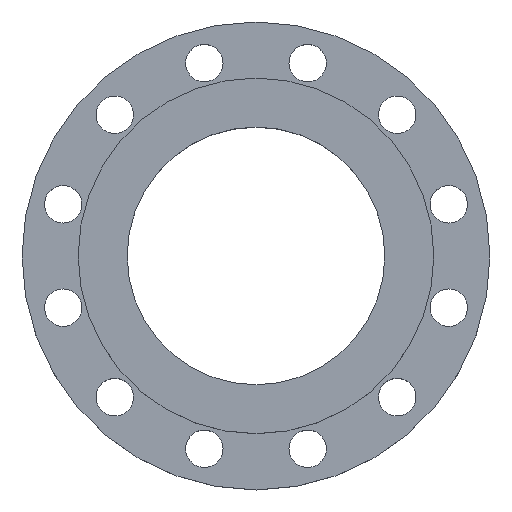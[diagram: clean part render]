
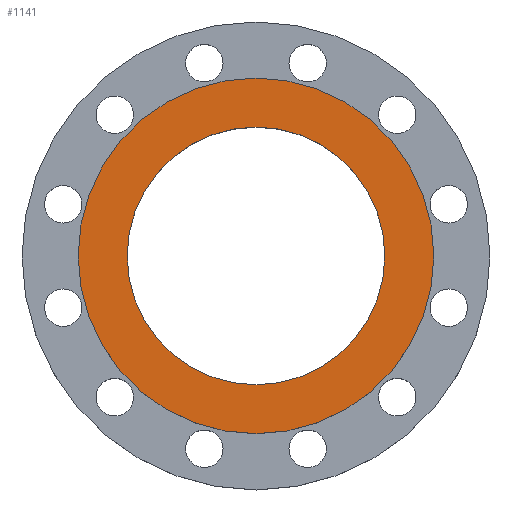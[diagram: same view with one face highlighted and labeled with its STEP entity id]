
A CAD part, top view. The second image highlights one B-rep face of the part: STEP entity #1141.
In plain terms, the highlighted planar face has unit normal (0, 0, 1).
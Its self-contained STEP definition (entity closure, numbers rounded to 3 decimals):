
#1 = AXIS2_PLACEMENT_3D ( 'NONE', #76, #605, #1111 ) ;
#7 = EDGE_CURVE ( 'NONE', #982, #41, #1441, .T. ) ;
#11 = DIRECTION ( 'NONE',  ( 0., 0., 1. ) ) ;
#13 = AXIS2_PLACEMENT_3D ( 'NONE', #714, #1183, #49 ) ;
#41 = VERTEX_POINT ( 'NONE', #1487 ) ;
#42 = AXIS2_PLACEMENT_3D ( 'NONE', #327, #892, #1308 ) ;
#49 = DIRECTION ( 'NONE',  ( 1., 0., 0. ) ) ;
#76 = CARTESIAN_POINT ( 'NONE',  ( 0., 0., 28. ) ) ;
#166 = DIRECTION ( 'NONE',  ( 1., 0., 0. ) ) ;
#208 = AXIS2_PLACEMENT_3D ( 'NONE', #234, #11, #515 ) ;
#234 = CARTESIAN_POINT ( 'NONE',  ( 0., 0., 28. ) ) ;
#241 = EDGE_CURVE ( 'NONE', #41, #982, #895, .T. ) ;
#306 = CIRCLE ( 'NONE', #13, 142.5 ) ;
#327 = CARTESIAN_POINT ( 'NONE',  ( 103.25, 0., 28. ) ) ;
#394 = ORIENTED_EDGE ( 'NONE', *, *, #1057, .T. ) ;
#465 = FACE_OUTER_BOUND ( 'NONE', #961, .T. ) ;
#502 = EDGE_CURVE ( 'NONE', #882, #1025, #306, .T. ) ;
#515 = DIRECTION ( 'NONE',  ( 1., 0., 0. ) ) ;
#522 = EDGE_LOOP ( 'NONE', ( #1352, #954 ) ) ;
#605 = DIRECTION ( 'NONE',  ( 0., 0., 1. ) ) ;
#714 = CARTESIAN_POINT ( 'NONE',  ( 0., 0., 28. ) ) ;
#799 = AXIS2_PLACEMENT_3D ( 'NONE', #845, #1277, #166 ) ;
#804 = CIRCLE ( 'NONE', #799, 142.5 ) ;
#845 = CARTESIAN_POINT ( 'NONE',  ( 0., 0., 28. ) ) ;
#882 = VERTEX_POINT ( 'NONE', #904 ) ;
#892 = DIRECTION ( 'NONE',  ( 0., 0., 1. ) ) ;
#895 = CIRCLE ( 'NONE', #208, 103.25 ) ;
#904 = CARTESIAN_POINT ( 'NONE',  ( 142.5, 0., 28. ) ) ;
#954 = ORIENTED_EDGE ( 'NONE', *, *, #7, .F. ) ;
#961 = EDGE_LOOP ( 'NONE', ( #1161, #394 ) ) ;
#982 = VERTEX_POINT ( 'NONE', #1147 ) ;
#1010 = FACE_BOUND ( 'NONE', #522, .T. ) ;
#1025 = VERTEX_POINT ( 'NONE', #1266 ) ;
#1057 = EDGE_CURVE ( 'NONE', #1025, #882, #804, .T. ) ;
#1111 = DIRECTION ( 'NONE',  ( 1., 0., 0. ) ) ;
#1141 = ADVANCED_FACE ( 'NONE', ( #465, #1010 ), #1396, .T. ) ;
#1147 = CARTESIAN_POINT ( 'NONE',  ( -103.25, 0., 28. ) ) ;
#1161 = ORIENTED_EDGE ( 'NONE', *, *, #502, .T. ) ;
#1183 = DIRECTION ( 'NONE',  ( 0., 0., 1. ) ) ;
#1266 = CARTESIAN_POINT ( 'NONE',  ( -142.5, 0., 28. ) ) ;
#1277 = DIRECTION ( 'NONE',  ( 0., 0., 1. ) ) ;
#1308 = DIRECTION ( 'NONE',  ( 1., 0., 0. ) ) ;
#1352 = ORIENTED_EDGE ( 'NONE', *, *, #241, .F. ) ;
#1396 = PLANE ( 'NONE',  #42 ) ;
#1441 = CIRCLE ( 'NONE', #1, 103.25 ) ;
#1487 = CARTESIAN_POINT ( 'NONE',  ( 103.25, 0., 28. ) ) ;
